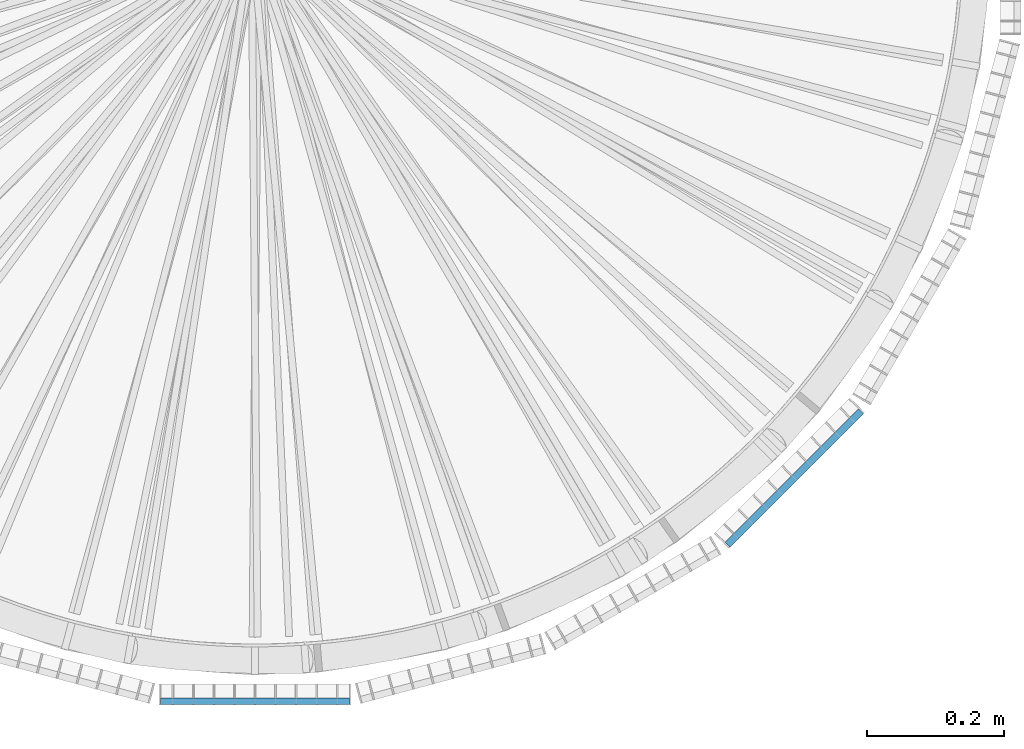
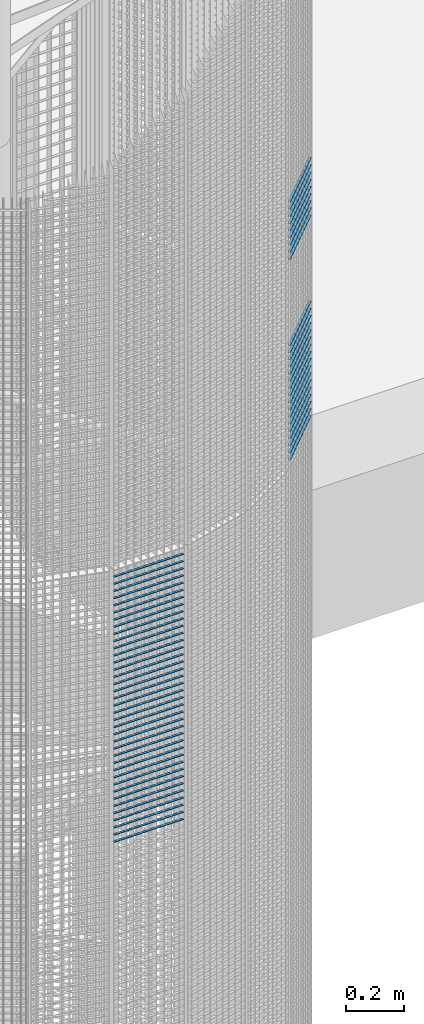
# One storey, part 394 of 1148: 64 beams, 2 elements without a shape of their own.
"""IFC2X3 building model written with IfcOpenShell, lengths in millimetres."""

from ifc_helpers import new_model, si_unit, frame, origin_with_axes, origin_2d_with_axis, place, context, subcontext, project, spatial, rectangle, extrude, material, type_object, element, aggregate, save


model = new_model("IFC2X3")

# Units and contexts
model_context = context("Model", 3, precision=1e-05, world=origin_with_axes())
body_context = subcontext(model_context, "Body", "Model", "MODEL_VIEW")
ifc_project = project(units=[si_unit("LENGTHUNIT", "METRE", prefix="MILLI"), si_unit("AREAUNIT", "SQUARE_METRE"), si_unit("VOLUMEUNIT", "CUBIC_METRE"), si_unit("MASSUNIT", "GRAM", prefix="KILO"), si_unit("TIMEUNIT", "SECOND"), si_unit("PLANEANGLEUNIT", "RADIAN"), si_unit("SOLIDANGLEUNIT", "STERADIAN"), si_unit("THERMODYNAMICTEMPERATUREUNIT", "DEGREE_CELSIUS"), si_unit("LUMINOUSINTENSITYUNIT", "LUMEN")], contexts=[model_context])

# Site, building, storey
site_placement = place(None, origin_with_axes())
site = spatial("IfcSite", under=ifc_project, at=site_placement, Name="Undefined", CompositionType="ELEMENT")
building_placement = place(site_placement, origin_with_axes())
building = spatial("IfcBuilding", under=site, at=building_placement, Name="Undefined", CompositionType="ELEMENT")
storey_placement = place(building_placement, origin_with_axes())
storey = spatial("IfcBuildingStorey", under=building, at=storey_placement, Name="Undefined", CompositionType="ELEMENT", Elevation=0.0)

# Assembly, beams
assembly_1_placement = place(storey_placement, origin_with_axes())
assembly_1 = element("IfcElementAssembly", 1, at=assembly_1_placement, inside=storey, Name="BORDURE", AssemblyPlace="NOTDEFINED", PredefinedType="NOTDEFINED")
ifc_material = material(Name="STEEL/S235JR")
beam_type = type_object("IfcBeamType", Name="PL2*10", PredefinedType="NOTDEFINED")
beam_1_placement = place(assembly_1_placement, frame((22484.9271684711, -689.771348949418, 9510.0), z_axis=(0.707106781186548, -0.707106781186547, 0.0), x_axis=(-0.70710678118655, -0.707106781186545, 0.0)))
beam_1 = element("IfcBeam", 2, at=beam_1_placement, type_object=beam_type, material=ifc_material, Name="ENTRETOISE", context=body_context, shape_type="SweptSolid", body=[
    extrude(rectangle(XDim=2.0, YDim=10.0, at=origin_2d_with_axis()), frame((275.999999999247, 9.09494701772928e-13, 1.53210777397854e-14), z_axis=(-1.0, 0.0, 0.0), x_axis=(0.0, -1.0, 0.0)), (0.0, 0.0, 1.0), 276.0),
])
beam_2_placement = place(assembly_1_placement, frame((22484.9271684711, -689.771348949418, 9480.0), z_axis=(0.707106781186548, -0.707106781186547, 0.0), x_axis=(-0.70710678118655, -0.707106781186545, 0.0)))
beam_2 = element("IfcBeam", 3, at=beam_2_placement, type_object=beam_type, material=ifc_material, Name="ENTRETOISE", context=body_context, shape_type="SweptSolid", body=[
    extrude(rectangle(XDim=2.0, YDim=10.0, at=origin_2d_with_axis()), frame((275.999999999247, 9.09494701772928e-13, 1.53210777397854e-14), z_axis=(-1.0, 0.0, 0.0), x_axis=(0.0, -1.0, 0.0)), (0.0, 0.0, 1.0), 276.0),
])
beam_3_placement = place(assembly_1_placement, frame((22484.9271684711, -689.771348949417, 9870.0), z_axis=(0.707106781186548, -0.707106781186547, 0.0), x_axis=(-0.70710678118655, -0.707106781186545, 0.0)))
beam_3 = element("IfcBeam", 4, at=beam_3_placement, type_object=beam_type, material=ifc_material, Name="ENTRETOISE", context=body_context, shape_type="SweptSolid", body=[
    extrude(rectangle(XDim=2.0, YDim=10.0, at=origin_2d_with_axis()), frame((275.999999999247, 9.09494701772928e-13, 1.53210777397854e-14), z_axis=(-1.0, 0.0, 0.0), x_axis=(0.0, -1.0, 0.0)), (0.0, 0.0, 1.0), 276.0),
])
beam_4_placement = place(assembly_1_placement, frame((22484.9271684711, -689.771348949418, 9450.0), z_axis=(0.707106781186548, -0.707106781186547, 0.0), x_axis=(-0.70710678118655, -0.707106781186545, 0.0)))
beam_4 = element("IfcBeam", 5, at=beam_4_placement, type_object=beam_type, material=ifc_material, Name="ENTRETOISE", context=body_context, shape_type="SweptSolid", body=[
    extrude(rectangle(XDim=2.0, YDim=10.0, at=origin_2d_with_axis()), frame((275.999999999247, 9.09494701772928e-13, 1.53210777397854e-14), z_axis=(-1.0, 0.0, 0.0), x_axis=(0.0, -1.0, 0.0)), (0.0, 0.0, 1.0), 276.0),
])
beam_5_placement = place(assembly_1_placement, frame((22484.9271684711, -689.771348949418, 9420.0), z_axis=(0.707106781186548, -0.707106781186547, 0.0), x_axis=(-0.70710678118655, -0.707106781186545, 0.0)))
beam_5 = element("IfcBeam", 6, at=beam_5_placement, type_object=beam_type, material=ifc_material, Name="ENTRETOISE", context=body_context, shape_type="SweptSolid", body=[
    extrude(rectangle(XDim=2.0, YDim=10.0, at=origin_2d_with_axis()), frame((275.999999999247, 9.09494701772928e-13, 1.53210777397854e-14), z_axis=(-1.0, 0.0, 0.0), x_axis=(0.0, -1.0, 0.0)), (0.0, 0.0, 1.0), 276.0),
])
beam_6_placement = place(assembly_1_placement, frame((22484.9271684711, -689.771348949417, 9900.0), z_axis=(0.707106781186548, -0.707106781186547, 0.0), x_axis=(-0.70710678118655, -0.707106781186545, 0.0)))
beam_6 = element("IfcBeam", 7, at=beam_6_placement, type_object=beam_type, material=ifc_material, Name="ENTRETOISE", context=body_context, shape_type="SweptSolid", body=[
    extrude(rectangle(XDim=2.0, YDim=10.0, at=origin_2d_with_axis()), frame((275.999999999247, 9.09494701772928e-13, 1.53210777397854e-14), z_axis=(-1.0, 0.0, 0.0), x_axis=(0.0, -1.0, 0.0)), (0.0, 0.0, 1.0), 276.0),
])
beam_7_placement = place(assembly_1_placement, frame((22484.9271684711, -689.771348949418, 9390.0), z_axis=(0.707106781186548, -0.707106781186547, 0.0), x_axis=(-0.70710678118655, -0.707106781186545, 0.0)))
beam_7 = element("IfcBeam", 8, at=beam_7_placement, type_object=beam_type, material=ifc_material, Name="ENTRETOISE", context=body_context, shape_type="SweptSolid", body=[
    extrude(rectangle(XDim=2.0, YDim=10.0, at=origin_2d_with_axis()), frame((275.999999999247, 9.09494701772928e-13, 1.53210777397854e-14), z_axis=(-1.0, 0.0, 0.0), x_axis=(0.0, -1.0, 0.0)), (0.0, 0.0, 1.0), 276.0),
])
beam_8_placement = place(assembly_1_placement, frame((22484.9271684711, -689.771348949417, 9930.0), z_axis=(0.707106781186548, -0.707106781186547, 0.0), x_axis=(-0.70710678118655, -0.707106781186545, 0.0)))
beam_8 = element("IfcBeam", 9, at=beam_8_placement, type_object=beam_type, material=ifc_material, Name="ENTRETOISE", context=body_context, shape_type="SweptSolid", body=[
    extrude(rectangle(XDim=2.0, YDim=10.0, at=origin_2d_with_axis()), frame((275.999999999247, 9.09494701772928e-13, 1.53210777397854e-14), z_axis=(-1.0, 0.0, 0.0), x_axis=(0.0, -1.0, 0.0)), (0.0, 0.0, 1.0), 276.0),
])
beam_9_placement = place(assembly_1_placement, frame((22484.9271684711, -689.771348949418, 9360.0), z_axis=(0.707106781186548, -0.707106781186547, 0.0), x_axis=(-0.70710678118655, -0.707106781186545, 0.0)))
beam_9 = element("IfcBeam", 10, at=beam_9_placement, type_object=beam_type, material=ifc_material, Name="ENTRETOISE", context=body_context, shape_type="SweptSolid", body=[
    extrude(rectangle(XDim=2.0, YDim=10.0, at=origin_2d_with_axis()), frame((275.999999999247, 9.09494701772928e-13, 1.53210777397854e-14), z_axis=(-1.0, 0.0, 0.0), x_axis=(0.0, -1.0, 0.0)), (0.0, 0.0, 1.0), 276.0),
])
beam_10_placement = place(assembly_1_placement, frame((22484.9271684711, -689.771348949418, 9330.0), z_axis=(0.707106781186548, -0.707106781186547, 0.0), x_axis=(-0.70710678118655, -0.707106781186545, 0.0)))
beam_10 = element("IfcBeam", 11, at=beam_10_placement, type_object=beam_type, material=ifc_material, Name="ENTRETOISE", context=body_context, shape_type="SweptSolid", body=[
    extrude(rectangle(XDim=2.0, YDim=10.0, at=origin_2d_with_axis()), frame((275.999999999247, 9.09494701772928e-13, 1.53210777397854e-14), z_axis=(-1.0, 0.0, 0.0), x_axis=(0.0, -1.0, 0.0)), (0.0, 0.0, 1.0), 276.0),
])
beam_11_placement = place(assembly_1_placement, frame((22484.9271684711, -689.771348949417, 9960.0), z_axis=(0.707106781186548, -0.707106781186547, 0.0), x_axis=(-0.70710678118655, -0.707106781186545, 0.0)))
beam_11 = element("IfcBeam", 12, at=beam_11_placement, type_object=beam_type, material=ifc_material, Name="ENTRETOISE", context=body_context, shape_type="SweptSolid", body=[
    extrude(rectangle(XDim=2.0, YDim=10.0, at=origin_2d_with_axis()), frame((275.999999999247, 9.09494701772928e-13, 1.53210777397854e-14), z_axis=(-1.0, 0.0, 0.0), x_axis=(0.0, -1.0, 0.0)), (0.0, 0.0, 1.0), 276.0),
])
beam_12_placement = place(assembly_1_placement, frame((22484.9271684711, -689.771348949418, 9300.0), z_axis=(0.707106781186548, -0.707106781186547, 0.0), x_axis=(-0.70710678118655, -0.707106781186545, 0.0)))
beam_12 = element("IfcBeam", 13, at=beam_12_placement, type_object=beam_type, material=ifc_material, Name="ENTRETOISE", context=body_context, shape_type="SweptSolid", body=[
    extrude(rectangle(XDim=2.0, YDim=10.0, at=origin_2d_with_axis()), frame((275.999999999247, 9.09494701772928e-13, 1.53210777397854e-14), z_axis=(-1.0, 0.0, 0.0), x_axis=(0.0, -1.0, 0.0)), (0.0, 0.0, 1.0), 276.0),
])
beam_13_placement = place(assembly_1_placement, frame((22484.9271684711, -689.771348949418, 9270.0), z_axis=(0.707106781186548, -0.707106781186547, 0.0), x_axis=(-0.70710678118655, -0.707106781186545, 0.0)))
beam_13 = element("IfcBeam", 14, at=beam_13_placement, type_object=beam_type, material=ifc_material, Name="ENTRETOISE", context=body_context, shape_type="SweptSolid", body=[
    extrude(rectangle(XDim=2.0, YDim=10.0, at=origin_2d_with_axis()), frame((275.999999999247, 9.09494701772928e-13, 1.53210777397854e-14), z_axis=(-1.0, 0.0, 0.0), x_axis=(0.0, -1.0, 0.0)), (0.0, 0.0, 1.0), 276.0),
])
beam_14_placement = place(assembly_1_placement, frame((22484.9271684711, -689.771348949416, 9990.0), z_axis=(0.707106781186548, -0.707106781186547, 0.0), x_axis=(-0.70710678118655, -0.707106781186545, 0.0)))
beam_14 = element("IfcBeam", 15, at=beam_14_placement, type_object=beam_type, material=ifc_material, Name="ENTRETOISE", context=body_context, shape_type="SweptSolid", body=[
    extrude(rectangle(XDim=2.0, YDim=10.0, at=origin_2d_with_axis()), frame((275.999999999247, 9.09494701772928e-13, 1.53210777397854e-14), z_axis=(-1.0, 0.0, 0.0), x_axis=(0.0, -1.0, 0.0)), (0.0, 0.0, 1.0), 276.0),
])
beam_15_placement = place(assembly_1_placement, frame((22484.9271684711, -689.771348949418, 9240.0), z_axis=(0.707106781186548, -0.707106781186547, 0.0), x_axis=(-0.70710678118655, -0.707106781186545, 0.0)))
beam_15 = element("IfcBeam", 16, at=beam_15_placement, type_object=beam_type, material=ifc_material, Name="ENTRETOISE", context=body_context, shape_type="SweptSolid", body=[
    extrude(rectangle(XDim=2.0, YDim=10.0, at=origin_2d_with_axis()), frame((275.999999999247, 9.09494701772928e-13, 1.53210777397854e-14), z_axis=(-1.0, 0.0, 0.0), x_axis=(0.0, -1.0, 0.0)), (0.0, 0.0, 1.0), 276.0),
])
beam_16_placement = place(assembly_1_placement, frame((22484.9271684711, -689.771348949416, 10020.0), z_axis=(0.707106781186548, -0.707106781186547, 0.0), x_axis=(-0.70710678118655, -0.707106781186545, 0.0)))
beam_16 = element("IfcBeam", 17, at=beam_16_placement, type_object=beam_type, material=ifc_material, Name="ENTRETOISE", context=body_context, shape_type="SweptSolid", body=[
    extrude(rectangle(XDim=2.0, YDim=10.0, at=origin_2d_with_axis()), frame((275.999999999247, 9.09494701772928e-13, 1.53210777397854e-14), z_axis=(-1.0, 0.0, 0.0), x_axis=(0.0, -1.0, 0.0)), (0.0, 0.0, 1.0), 276.0),
])
beam_17_placement = place(assembly_1_placement, frame((22484.9271684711, -689.771348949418, 9210.0), z_axis=(0.707106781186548, -0.707106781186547, 0.0), x_axis=(-0.70710678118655, -0.707106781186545, 0.0)))
beam_17 = element("IfcBeam", 18, at=beam_17_placement, type_object=beam_type, material=ifc_material, Name="ENTRETOISE", context=body_context, shape_type="SweptSolid", body=[
    extrude(rectangle(XDim=2.0, YDim=10.0, at=origin_2d_with_axis()), frame((275.999999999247, 9.09494701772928e-13, 1.53210777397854e-14), z_axis=(-1.0, 0.0, 0.0), x_axis=(0.0, -1.0, 0.0)), (0.0, 0.0, 1.0), 276.0),
])
beam_18_placement = place(assembly_1_placement, frame((22484.9271684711, -689.771348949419, 9180.0), z_axis=(0.707106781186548, -0.707106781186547, 0.0), x_axis=(-0.70710678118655, -0.707106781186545, 0.0)))
beam_18 = element("IfcBeam", 19, at=beam_18_placement, type_object=beam_type, material=ifc_material, Name="ENTRETOISE", context=body_context, shape_type="SweptSolid", body=[
    extrude(rectangle(XDim=2.0, YDim=10.0, at=origin_2d_with_axis()), frame((275.999999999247, 9.09494701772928e-13, 1.53210777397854e-14), z_axis=(-1.0, 0.0, 0.0), x_axis=(0.0, -1.0, 0.0)), (0.0, 0.0, 1.0), 276.0),
])
beam_19_placement = place(assembly_1_placement, frame((22484.9271684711, -689.771348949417, 10050.0), z_axis=(0.707106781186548, -0.707106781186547, 0.0), x_axis=(-0.70710678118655, -0.707106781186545, 0.0)))
beam_19 = element("IfcBeam", 20, at=beam_19_placement, type_object=beam_type, material=ifc_material, Name="ENTRETOISE", context=body_context, shape_type="SweptSolid", body=[
    extrude(rectangle(XDim=2.0, YDim=10.0, at=origin_2d_with_axis()), frame((275.999999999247, 9.09494701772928e-13, 1.53210777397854e-14), z_axis=(-1.0, 0.0, 0.0), x_axis=(0.0, -1.0, 0.0)), (0.0, 0.0, 1.0), 276.0),
])
beam_20_placement = place(assembly_1_placement, frame((22484.9271684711, -689.771348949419, 9150.0), z_axis=(0.707106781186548, -0.707106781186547, 0.0), x_axis=(-0.70710678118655, -0.707106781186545, 0.0)))
beam_20 = element("IfcBeam", 21, at=beam_20_placement, type_object=beam_type, material=ifc_material, Name="ENTRETOISE", context=body_context, shape_type="SweptSolid", body=[
    extrude(rectangle(XDim=2.0, YDim=10.0, at=origin_2d_with_axis()), frame((275.999999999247, 9.09494701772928e-13, 1.53210777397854e-14), z_axis=(-1.0, 0.0, 0.0), x_axis=(0.0, -1.0, 0.0)), (0.0, 0.0, 1.0), 276.0),
])
beam_21_placement = place(assembly_1_placement, frame((22484.9271684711, -689.771348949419, 9120.0), z_axis=(0.707106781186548, -0.707106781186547, 0.0), x_axis=(-0.70710678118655, -0.707106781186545, 0.0)))
beam_21 = element("IfcBeam", 22, at=beam_21_placement, type_object=beam_type, material=ifc_material, Name="ENTRETOISE", context=body_context, shape_type="SweptSolid", body=[
    extrude(rectangle(XDim=2.0, YDim=10.0, at=origin_2d_with_axis()), frame((275.999999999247, 9.09494701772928e-13, 1.53210777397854e-14), z_axis=(-1.0, 0.0, 0.0), x_axis=(0.0, -1.0, 0.0)), (0.0, 0.0, 1.0), 276.0),
])
beam_22_placement = place(assembly_1_placement, frame((22484.9271684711, -689.771348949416, 10080.0), z_axis=(0.707106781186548, -0.707106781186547, 0.0), x_axis=(-0.70710678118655, -0.707106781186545, 0.0)))
beam_22 = element("IfcBeam", 23, at=beam_22_placement, type_object=beam_type, material=ifc_material, Name="ENTRETOISE", context=body_context, shape_type="SweptSolid", body=[
    extrude(rectangle(XDim=2.0, YDim=10.0, at=origin_2d_with_axis()), frame((275.999999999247, 9.09494701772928e-13, 1.53210777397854e-14), z_axis=(-1.0, 0.0, 0.0), x_axis=(0.0, -1.0, 0.0)), (0.0, 0.0, 1.0), 276.0),
])
beam_23_placement = place(assembly_1_placement, frame((22484.9271684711, -689.771348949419, 9090.0), z_axis=(0.707106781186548, -0.707106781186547, 0.0), x_axis=(-0.70710678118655, -0.707106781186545, 0.0)))
beam_23 = element("IfcBeam", 24, at=beam_23_placement, type_object=beam_type, material=ifc_material, Name="ENTRETOISE", context=body_context, shape_type="SweptSolid", body=[
    extrude(rectangle(XDim=2.0, YDim=10.0, at=origin_2d_with_axis()), frame((275.999999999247, 9.09494701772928e-13, 1.53210777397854e-14), z_axis=(-1.0, 0.0, 0.0), x_axis=(0.0, -1.0, 0.0)), (0.0, 0.0, 1.0), 276.0),
])
beam_24_placement = place(assembly_1_placement, frame((22484.9271684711, -689.771348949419, 9060.0), z_axis=(0.707106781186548, -0.707106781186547, 0.0), x_axis=(-0.70710678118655, -0.707106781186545, 0.0)))
beam_24 = element("IfcBeam", 25, at=beam_24_placement, type_object=beam_type, material=ifc_material, Name="ENTRETOISE", context=body_context, shape_type="SweptSolid", body=[
    extrude(rectangle(XDim=2.0, YDim=10.0, at=origin_2d_with_axis()), frame((275.999999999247, 9.09494701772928e-13, 1.53210777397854e-14), z_axis=(-1.0, 0.0, 0.0), x_axis=(0.0, -1.0, 0.0)), (0.0, 0.0, 1.0), 276.0),
])
beam_25_placement = place(assembly_1_placement, frame((22484.9271684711, -689.771348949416, 10110.0), z_axis=(0.707106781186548, -0.707106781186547, 0.0), x_axis=(-0.70710678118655, -0.707106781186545, 0.0)))
beam_25 = element("IfcBeam", 26, at=beam_25_placement, type_object=beam_type, material=ifc_material, Name="ENTRETOISE", context=body_context, shape_type="SweptSolid", body=[
    extrude(rectangle(XDim=2.0, YDim=10.0, at=origin_2d_with_axis()), frame((275.999999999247, 9.09494701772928e-13, 1.53210777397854e-14), z_axis=(-1.0, 0.0, 0.0), x_axis=(0.0, -1.0, 0.0)), (0.0, 0.0, 1.0), 276.0),
])
beam_26_placement = place(assembly_1_placement, frame((22484.9271684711, -689.771348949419, 9030.0), z_axis=(0.707106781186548, -0.707106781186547, 0.0), x_axis=(-0.70710678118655, -0.707106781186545, 0.0)))
beam_26 = element("IfcBeam", 27, at=beam_26_placement, type_object=beam_type, material=ifc_material, Name="ENTRETOISE", context=body_context, shape_type="SweptSolid", body=[
    extrude(rectangle(XDim=2.0, YDim=10.0, at=origin_2d_with_axis()), frame((275.999999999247, 9.09494701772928e-13, 1.53210777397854e-14), z_axis=(-1.0, 0.0, 0.0), x_axis=(0.0, -1.0, 0.0)), (0.0, 0.0, 1.0), 276.0),
])
aggregate(assembly_1, [beam_1, beam_2, beam_3, beam_4, beam_5, beam_6, beam_7, beam_8, beam_9, beam_10, beam_11, beam_12, beam_13, beam_14, beam_15, beam_16, beam_17, beam_18, beam_19, beam_20, beam_21, beam_22, beam_23, beam_24, beam_25, beam_26])

assembly_2_placement = place(storey_placement, origin_with_axes())
assembly_2 = element("IfcElementAssembly", 28, at=assembly_2_placement, inside=storey, Name="BORDURE", AssemblyPlace="NOTDEFINED", PredefinedType="NOTDEFINED")
beam_27_placement = place(assembly_2_placement, frame((21737.9960033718, -1113.47999999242, 8970.0), z_axis=(0.0, -1.0, 0.0), x_axis=(-1.0, 0.0, 0.0)))
beam_27 = element("IfcBeam", 29, at=beam_27_placement, type_object=beam_type, material=ifc_material, Name="ENTRETOISE", context=body_context, shape_type="SweptSolid", body=[
    extrude(rectangle(XDim=2.0, YDim=10.0, at=origin_2d_with_axis()), frame((275.999999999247, 9.09494701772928e-13, 1.53210777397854e-14), z_axis=(-1.0, 0.0, 0.0), x_axis=(0.0, -1.0, 0.0)), (0.0, 0.0, 1.0), 276.0),
])
beam_28_placement = place(assembly_2_placement, frame((21737.9960033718, -1113.47999999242, 8940.0), z_axis=(0.0, -1.0, 0.0), x_axis=(-1.0, 0.0, 0.0)))
beam_28 = element("IfcBeam", 30, at=beam_28_placement, type_object=beam_type, material=ifc_material, Name="ENTRETOISE", context=body_context, shape_type="SweptSolid", body=[
    extrude(rectangle(XDim=2.0, YDim=10.0, at=origin_2d_with_axis()), frame((275.999999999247, 9.09494701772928e-13, 1.53210777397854e-14), z_axis=(-1.0, 0.0, 0.0), x_axis=(0.0, -1.0, 0.0)), (0.0, 0.0, 1.0), 276.0),
])
beam_29_placement = place(assembly_2_placement, frame((21737.9960033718, -1113.47999999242, 8910.0), z_axis=(0.0, -1.0, 0.0), x_axis=(-1.0, 0.0, 0.0)))
beam_29 = element("IfcBeam", 31, at=beam_29_placement, type_object=beam_type, material=ifc_material, Name="ENTRETOISE", context=body_context, shape_type="SweptSolid", body=[
    extrude(rectangle(XDim=2.0, YDim=10.0, at=origin_2d_with_axis()), frame((275.999999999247, 9.09494701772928e-13, 1.53210777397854e-14), z_axis=(-1.0, 0.0, 0.0), x_axis=(0.0, -1.0, 0.0)), (0.0, 0.0, 1.0), 276.0),
])
beam_30_placement = place(assembly_2_placement, frame((21737.9960033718, -1113.47999999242, 8880.0), z_axis=(0.0, -1.0, 0.0), x_axis=(-1.0, 0.0, 0.0)))
beam_30 = element("IfcBeam", 32, at=beam_30_placement, type_object=beam_type, material=ifc_material, Name="ENTRETOISE", context=body_context, shape_type="SweptSolid", body=[
    extrude(rectangle(XDim=2.0, YDim=10.0, at=origin_2d_with_axis()), frame((275.999999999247, 9.09494701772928e-13, 1.53210777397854e-14), z_axis=(-1.0, 0.0, 0.0), x_axis=(0.0, -1.0, 0.0)), (0.0, 0.0, 1.0), 276.0),
])
beam_31_placement = place(assembly_2_placement, frame((21737.9960033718, -1113.47999999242, 8850.0), z_axis=(0.0, -1.0, 0.0), x_axis=(-1.0, 0.0, 0.0)))
beam_31 = element("IfcBeam", 33, at=beam_31_placement, type_object=beam_type, material=ifc_material, Name="ENTRETOISE", context=body_context, shape_type="SweptSolid", body=[
    extrude(rectangle(XDim=2.0, YDim=10.0, at=origin_2d_with_axis()), frame((275.999999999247, 9.09494701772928e-13, 1.53210777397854e-14), z_axis=(-1.0, 0.0, 0.0), x_axis=(0.0, -1.0, 0.0)), (0.0, 0.0, 1.0), 276.0),
])
beam_32_placement = place(assembly_2_placement, frame((21737.9960033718, -1113.47999999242, 8820.0), z_axis=(0.0, -1.0, 0.0), x_axis=(-1.0, 0.0, 0.0)))
beam_32 = element("IfcBeam", 34, at=beam_32_placement, type_object=beam_type, material=ifc_material, Name="ENTRETOISE", context=body_context, shape_type="SweptSolid", body=[
    extrude(rectangle(XDim=2.0, YDim=10.0, at=origin_2d_with_axis()), frame((275.999999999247, 9.09494701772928e-13, 1.53210777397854e-14), z_axis=(-1.0, 0.0, 0.0), x_axis=(0.0, -1.0, 0.0)), (0.0, 0.0, 1.0), 276.0),
])
beam_33_placement = place(assembly_2_placement, frame((21737.9960033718, -1113.47999999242, 8790.0), z_axis=(0.0, -1.0, 0.0), x_axis=(-1.0, 0.0, 0.0)))
beam_33 = element("IfcBeam", 35, at=beam_33_placement, type_object=beam_type, material=ifc_material, Name="ENTRETOISE", context=body_context, shape_type="SweptSolid", body=[
    extrude(rectangle(XDim=2.0, YDim=10.0, at=origin_2d_with_axis()), frame((275.999999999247, 9.09494701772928e-13, 1.53210777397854e-14), z_axis=(-1.0, 0.0, 0.0), x_axis=(0.0, -1.0, 0.0)), (0.0, 0.0, 1.0), 276.0),
])
beam_34_placement = place(assembly_2_placement, frame((21737.9960033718, -1113.47999999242, 8760.0), z_axis=(0.0, -1.0, 0.0), x_axis=(-1.0, 0.0, 0.0)))
beam_34 = element("IfcBeam", 36, at=beam_34_placement, type_object=beam_type, material=ifc_material, Name="ENTRETOISE", context=body_context, shape_type="SweptSolid", body=[
    extrude(rectangle(XDim=2.0, YDim=10.0, at=origin_2d_with_axis()), frame((275.999999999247, 9.09494701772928e-13, 1.53210777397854e-14), z_axis=(-1.0, 0.0, 0.0), x_axis=(0.0, -1.0, 0.0)), (0.0, 0.0, 1.0), 276.0),
])
beam_35_placement = place(assembly_2_placement, frame((21737.9960033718, -1113.47999999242, 8730.0), z_axis=(0.0, -1.0, 0.0), x_axis=(-1.0, 0.0, 0.0)))
beam_35 = element("IfcBeam", 37, at=beam_35_placement, type_object=beam_type, material=ifc_material, Name="ENTRETOISE", context=body_context, shape_type="SweptSolid", body=[
    extrude(rectangle(XDim=2.0, YDim=10.0, at=origin_2d_with_axis()), frame((275.999999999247, 9.09494701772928e-13, 1.53210777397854e-14), z_axis=(-1.0, 0.0, 0.0), x_axis=(0.0, -1.0, 0.0)), (0.0, 0.0, 1.0), 276.0),
])
beam_36_placement = place(assembly_2_placement, frame((21737.9960033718, -1113.47999999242, 8700.0), z_axis=(0.0, -1.0, 0.0), x_axis=(-1.0, 0.0, 0.0)))
beam_36 = element("IfcBeam", 38, at=beam_36_placement, type_object=beam_type, material=ifc_material, Name="ENTRETOISE", context=body_context, shape_type="SweptSolid", body=[
    extrude(rectangle(XDim=2.0, YDim=10.0, at=origin_2d_with_axis()), frame((275.999999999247, 9.09494701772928e-13, 1.53210777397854e-14), z_axis=(-1.0, 0.0, 0.0), x_axis=(0.0, -1.0, 0.0)), (0.0, 0.0, 1.0), 276.0),
])
beam_37_placement = place(assembly_2_placement, frame((21737.9960033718, -1113.47999999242, 8670.0), z_axis=(0.0, -1.0, 0.0), x_axis=(-1.0, 0.0, 0.0)))
beam_37 = element("IfcBeam", 39, at=beam_37_placement, type_object=beam_type, material=ifc_material, Name="ENTRETOISE", context=body_context, shape_type="SweptSolid", body=[
    extrude(rectangle(XDim=2.0, YDim=10.0, at=origin_2d_with_axis()), frame((275.999999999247, 9.09494701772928e-13, 1.53210777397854e-14), z_axis=(-1.0, 0.0, 0.0), x_axis=(0.0, -1.0, 0.0)), (0.0, 0.0, 1.0), 276.0),
])
beam_38_placement = place(assembly_2_placement, frame((21737.9960033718, -1113.47999999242, 8640.0), z_axis=(0.0, -1.0, 0.0), x_axis=(-1.0, 0.0, 0.0)))
beam_38 = element("IfcBeam", 40, at=beam_38_placement, type_object=beam_type, material=ifc_material, Name="ENTRETOISE", context=body_context, shape_type="SweptSolid", body=[
    extrude(rectangle(XDim=2.0, YDim=10.0, at=origin_2d_with_axis()), frame((275.999999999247, 9.09494701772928e-13, 1.53210777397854e-14), z_axis=(-1.0, 0.0, 0.0), x_axis=(0.0, -1.0, 0.0)), (0.0, 0.0, 1.0), 276.0),
])
beam_39_placement = place(assembly_2_placement, frame((21737.9960033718, -1113.47999999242, 8610.0), z_axis=(0.0, -1.0, 0.0), x_axis=(-1.0, 0.0, 0.0)))
beam_39 = element("IfcBeam", 41, at=beam_39_placement, type_object=beam_type, material=ifc_material, Name="ENTRETOISE", context=body_context, shape_type="SweptSolid", body=[
    extrude(rectangle(XDim=2.0, YDim=10.0, at=origin_2d_with_axis()), frame((275.999999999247, 9.09494701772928e-13, 1.53210777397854e-14), z_axis=(-1.0, 0.0, 0.0), x_axis=(0.0, -1.0, 0.0)), (0.0, 0.0, 1.0), 276.0),
])
beam_40_placement = place(assembly_2_placement, frame((21737.9960033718, -1113.47999999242, 8580.0), z_axis=(0.0, -1.0, 0.0), x_axis=(-1.0, 0.0, 0.0)))
beam_40 = element("IfcBeam", 42, at=beam_40_placement, type_object=beam_type, material=ifc_material, Name="ENTRETOISE", context=body_context, shape_type="SweptSolid", body=[
    extrude(rectangle(XDim=2.0, YDim=10.0, at=origin_2d_with_axis()), frame((275.999999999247, 9.09494701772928e-13, 1.53210777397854e-14), z_axis=(-1.0, 0.0, 0.0), x_axis=(0.0, -1.0, 0.0)), (0.0, 0.0, 1.0), 276.0),
])
beam_41_placement = place(assembly_2_placement, frame((21737.9960033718, -1113.47999999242, 8550.0), z_axis=(0.0, -1.0, 0.0), x_axis=(-1.0, 0.0, 0.0)))
beam_41 = element("IfcBeam", 43, at=beam_41_placement, type_object=beam_type, material=ifc_material, Name="ENTRETOISE", context=body_context, shape_type="SweptSolid", body=[
    extrude(rectangle(XDim=2.0, YDim=10.0, at=origin_2d_with_axis()), frame((275.999999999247, 9.09494701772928e-13, 1.53210777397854e-14), z_axis=(-1.0, 0.0, 0.0), x_axis=(0.0, -1.0, 0.0)), (0.0, 0.0, 1.0), 276.0),
])
beam_42_placement = place(assembly_2_placement, frame((21737.9960033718, -1113.47999999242, 8520.0), z_axis=(0.0, -1.0, 0.0), x_axis=(-1.0, 0.0, 0.0)))
beam_42 = element("IfcBeam", 44, at=beam_42_placement, type_object=beam_type, material=ifc_material, Name="ENTRETOISE", context=body_context, shape_type="SweptSolid", body=[
    extrude(rectangle(XDim=2.0, YDim=10.0, at=origin_2d_with_axis()), frame((275.999999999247, 9.09494701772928e-13, 1.53210777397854e-14), z_axis=(-1.0, 0.0, 0.0), x_axis=(0.0, -1.0, 0.0)), (0.0, 0.0, 1.0), 276.0),
])
beam_43_placement = place(assembly_2_placement, frame((21737.9960033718, -1113.47999999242, 8490.0), z_axis=(0.0, -1.0, 0.0), x_axis=(-1.0, 0.0, 0.0)))
beam_43 = element("IfcBeam", 45, at=beam_43_placement, type_object=beam_type, material=ifc_material, Name="ENTRETOISE", context=body_context, shape_type="SweptSolid", body=[
    extrude(rectangle(XDim=2.0, YDim=10.0, at=origin_2d_with_axis()), frame((275.999999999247, 9.09494701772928e-13, 1.53210777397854e-14), z_axis=(-1.0, 0.0, 0.0), x_axis=(0.0, -1.0, 0.0)), (0.0, 0.0, 1.0), 276.0),
])
beam_44_placement = place(assembly_2_placement, frame((21737.9960033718, -1113.47999999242, 8460.0), z_axis=(0.0, -1.0, 0.0), x_axis=(-1.0, 0.0, 0.0)))
beam_44 = element("IfcBeam", 46, at=beam_44_placement, type_object=beam_type, material=ifc_material, Name="ENTRETOISE", context=body_context, shape_type="SweptSolid", body=[
    extrude(rectangle(XDim=2.0, YDim=10.0, at=origin_2d_with_axis()), frame((275.999999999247, 9.09494701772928e-13, 1.53210777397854e-14), z_axis=(-1.0, 0.0, 0.0), x_axis=(0.0, -1.0, 0.0)), (0.0, 0.0, 1.0), 276.0),
])
beam_45_placement = place(assembly_2_placement, frame((21737.9960033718, -1113.47999999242, 8430.0), z_axis=(0.0, -1.0, 0.0), x_axis=(-1.0, 0.0, 0.0)))
beam_45 = element("IfcBeam", 47, at=beam_45_placement, type_object=beam_type, material=ifc_material, Name="ENTRETOISE", context=body_context, shape_type="SweptSolid", body=[
    extrude(rectangle(XDim=2.0, YDim=10.0, at=origin_2d_with_axis()), frame((275.999999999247, 9.09494701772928e-13, 1.53210777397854e-14), z_axis=(-1.0, 0.0, 0.0), x_axis=(0.0, -1.0, 0.0)), (0.0, 0.0, 1.0), 276.0),
])
beam_46_placement = place(assembly_2_placement, frame((21737.9960033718, -1113.47999999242, 8400.0), z_axis=(0.0, -1.0, 0.0), x_axis=(-1.0, 0.0, 0.0)))
beam_46 = element("IfcBeam", 48, at=beam_46_placement, type_object=beam_type, material=ifc_material, Name="ENTRETOISE", context=body_context, shape_type="SweptSolid", body=[
    extrude(rectangle(XDim=2.0, YDim=10.0, at=origin_2d_with_axis()), frame((275.999999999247, 9.09494701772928e-13, 1.53210777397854e-14), z_axis=(-1.0, 0.0, 0.0), x_axis=(0.0, -1.0, 0.0)), (0.0, 0.0, 1.0), 276.0),
])
beam_47_placement = place(assembly_2_placement, frame((21737.9960033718, -1113.47999999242, 8370.0), z_axis=(0.0, -1.0, 0.0), x_axis=(-1.0, 0.0, 0.0)))
beam_47 = element("IfcBeam", 49, at=beam_47_placement, type_object=beam_type, material=ifc_material, Name="ENTRETOISE", context=body_context, shape_type="SweptSolid", body=[
    extrude(rectangle(XDim=2.0, YDim=10.0, at=origin_2d_with_axis()), frame((275.999999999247, 9.09494701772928e-13, 1.53210777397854e-14), z_axis=(-1.0, 0.0, 0.0), x_axis=(0.0, -1.0, 0.0)), (0.0, 0.0, 1.0), 276.0),
])
beam_48_placement = place(assembly_2_placement, frame((21737.9960033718, -1113.47999999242, 8340.0), z_axis=(0.0, -1.0, 0.0), x_axis=(-1.0, 0.0, 0.0)))
beam_48 = element("IfcBeam", 50, at=beam_48_placement, type_object=beam_type, material=ifc_material, Name="ENTRETOISE", context=body_context, shape_type="SweptSolid", body=[
    extrude(rectangle(XDim=2.0, YDim=10.0, at=origin_2d_with_axis()), frame((275.999999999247, 9.09494701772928e-13, 1.53210777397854e-14), z_axis=(-1.0, 0.0, 0.0), x_axis=(0.0, -1.0, 0.0)), (0.0, 0.0, 1.0), 276.0),
])
beam_49_placement = place(assembly_2_placement, frame((21737.9960033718, -1113.47999999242, 8310.0), z_axis=(0.0, -1.0, 0.0), x_axis=(-1.0, 0.0, 0.0)))
beam_49 = element("IfcBeam", 51, at=beam_49_placement, type_object=beam_type, material=ifc_material, Name="ENTRETOISE", context=body_context, shape_type="SweptSolid", body=[
    extrude(rectangle(XDim=2.0, YDim=10.0, at=origin_2d_with_axis()), frame((275.999999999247, 9.09494701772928e-13, 1.53210777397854e-14), z_axis=(-1.0, 0.0, 0.0), x_axis=(0.0, -1.0, 0.0)), (0.0, 0.0, 1.0), 276.0),
])
beam_50_placement = place(assembly_2_placement, frame((21737.9960033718, -1113.47999999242, 8280.0), z_axis=(0.0, -1.0, 0.0), x_axis=(-1.0, 0.0, 0.0)))
beam_50 = element("IfcBeam", 52, at=beam_50_placement, type_object=beam_type, material=ifc_material, Name="ENTRETOISE", context=body_context, shape_type="SweptSolid", body=[
    extrude(rectangle(XDim=2.0, YDim=10.0, at=origin_2d_with_axis()), frame((275.999999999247, 9.09494701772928e-13, 1.53210777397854e-14), z_axis=(-1.0, 0.0, 0.0), x_axis=(0.0, -1.0, 0.0)), (0.0, 0.0, 1.0), 276.0),
])
beam_51_placement = place(assembly_2_placement, frame((21737.9960033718, -1113.47999999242, 8250.0), z_axis=(0.0, -1.0, 0.0), x_axis=(-1.0, 0.0, 0.0)))
beam_51 = element("IfcBeam", 53, at=beam_51_placement, type_object=beam_type, material=ifc_material, Name="ENTRETOISE", context=body_context, shape_type="SweptSolid", body=[
    extrude(rectangle(XDim=2.0, YDim=10.0, at=origin_2d_with_axis()), frame((275.999999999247, 9.09494701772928e-13, 1.53210777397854e-14), z_axis=(-1.0, 0.0, 0.0), x_axis=(0.0, -1.0, 0.0)), (0.0, 0.0, 1.0), 276.0),
])
beam_52_placement = place(assembly_2_placement, frame((21737.9960033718, -1113.47999999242, 8220.0), z_axis=(0.0, -1.0, 0.0), x_axis=(-1.0, 0.0, 0.0)))
beam_52 = element("IfcBeam", 54, at=beam_52_placement, type_object=beam_type, material=ifc_material, Name="ENTRETOISE", context=body_context, shape_type="SweptSolid", body=[
    extrude(rectangle(XDim=2.0, YDim=10.0, at=origin_2d_with_axis()), frame((275.999999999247, 9.09494701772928e-13, 1.53210777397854e-14), z_axis=(-1.0, 0.0, 0.0), x_axis=(0.0, -1.0, 0.0)), (0.0, 0.0, 1.0), 276.0),
])
beam_53_placement = place(assembly_2_placement, frame((21737.9960033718, -1113.47999999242, 8190.0), z_axis=(0.0, -1.0, 0.0), x_axis=(-1.0, 0.0, 0.0)))
beam_53 = element("IfcBeam", 55, at=beam_53_placement, type_object=beam_type, material=ifc_material, Name="ENTRETOISE", context=body_context, shape_type="SweptSolid", body=[
    extrude(rectangle(XDim=2.0, YDim=10.0, at=origin_2d_with_axis()), frame((275.999999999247, 9.09494701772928e-13, 1.53210777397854e-14), z_axis=(-1.0, 0.0, 0.0), x_axis=(0.0, -1.0, 0.0)), (0.0, 0.0, 1.0), 276.0),
])
beam_54_placement = place(assembly_2_placement, frame((21737.9960033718, -1113.47999999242, 8160.0), z_axis=(0.0, -1.0, 0.0), x_axis=(-1.0, 0.0, 0.0)))
beam_54 = element("IfcBeam", 56, at=beam_54_placement, type_object=beam_type, material=ifc_material, Name="ENTRETOISE", context=body_context, shape_type="SweptSolid", body=[
    extrude(rectangle(XDim=2.0, YDim=10.0, at=origin_2d_with_axis()), frame((275.999999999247, 9.09494701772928e-13, 1.53210777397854e-14), z_axis=(-1.0, 0.0, 0.0), x_axis=(0.0, -1.0, 0.0)), (0.0, 0.0, 1.0), 276.0),
])
beam_55_placement = place(assembly_2_placement, frame((21737.9960033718, -1113.47999999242, 8130.0), z_axis=(0.0, -1.0, 0.0), x_axis=(-1.0, 0.0, 0.0)))
beam_55 = element("IfcBeam", 57, at=beam_55_placement, type_object=beam_type, material=ifc_material, Name="ENTRETOISE", context=body_context, shape_type="SweptSolid", body=[
    extrude(rectangle(XDim=2.0, YDim=10.0, at=origin_2d_with_axis()), frame((275.999999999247, 9.09494701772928e-13, 1.53210777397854e-14), z_axis=(-1.0, 0.0, 0.0), x_axis=(0.0, -1.0, 0.0)), (0.0, 0.0, 1.0), 276.0),
])
beam_56_placement = place(assembly_2_placement, frame((21737.9960033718, -1113.47999999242, 8100.0), z_axis=(0.0, -1.0, 0.0), x_axis=(-1.0, 0.0, 0.0)))
beam_56 = element("IfcBeam", 58, at=beam_56_placement, type_object=beam_type, material=ifc_material, Name="ENTRETOISE", context=body_context, shape_type="SweptSolid", body=[
    extrude(rectangle(XDim=2.0, YDim=10.0, at=origin_2d_with_axis()), frame((275.999999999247, 9.09494701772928e-13, 1.53210777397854e-14), z_axis=(-1.0, 0.0, 0.0), x_axis=(0.0, -1.0, 0.0)), (0.0, 0.0, 1.0), 276.0),
])
beam_57_placement = place(assembly_2_placement, frame((21737.9960033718, -1113.47999999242, 8070.0), z_axis=(0.0, -1.0, 0.0), x_axis=(-1.0, 0.0, 0.0)))
beam_57 = element("IfcBeam", 59, at=beam_57_placement, type_object=beam_type, material=ifc_material, Name="ENTRETOISE", context=body_context, shape_type="SweptSolid", body=[
    extrude(rectangle(XDim=2.0, YDim=10.0, at=origin_2d_with_axis()), frame((275.999999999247, 9.09494701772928e-13, 1.53210777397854e-14), z_axis=(-1.0, 0.0, 0.0), x_axis=(0.0, -1.0, 0.0)), (0.0, 0.0, 1.0), 276.0),
])
beam_58_placement = place(assembly_2_placement, frame((21737.9960033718, -1113.47999999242, 8040.0), z_axis=(0.0, -1.0, 0.0), x_axis=(-1.0, 0.0, 0.0)))
beam_58 = element("IfcBeam", 60, at=beam_58_placement, type_object=beam_type, material=ifc_material, Name="ENTRETOISE", context=body_context, shape_type="SweptSolid", body=[
    extrude(rectangle(XDim=2.0, YDim=10.0, at=origin_2d_with_axis()), frame((275.999999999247, 9.09494701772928e-13, 1.53210777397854e-14), z_axis=(-1.0, 0.0, 0.0), x_axis=(0.0, -1.0, 0.0)), (0.0, 0.0, 1.0), 276.0),
])
beam_59_placement = place(assembly_2_placement, frame((21737.9960033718, -1113.47999999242, 8010.0), z_axis=(0.0, -1.0, 0.0), x_axis=(-1.0, 0.0, 0.0)))
beam_59 = element("IfcBeam", 61, at=beam_59_placement, type_object=beam_type, material=ifc_material, Name="ENTRETOISE", context=body_context, shape_type="SweptSolid", body=[
    extrude(rectangle(XDim=2.0, YDim=10.0, at=origin_2d_with_axis()), frame((275.999999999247, 9.09494701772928e-13, 1.53210777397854e-14), z_axis=(-1.0, 0.0, 0.0), x_axis=(0.0, -1.0, 0.0)), (0.0, 0.0, 1.0), 276.0),
])
beam_60_placement = place(assembly_2_placement, frame((21737.9960033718, -1113.47999999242, 7980.0), z_axis=(0.0, -1.0, 0.0), x_axis=(-1.0, 0.0, 0.0)))
beam_60 = element("IfcBeam", 62, at=beam_60_placement, type_object=beam_type, material=ifc_material, Name="ENTRETOISE", context=body_context, shape_type="SweptSolid", body=[
    extrude(rectangle(XDim=2.0, YDim=10.0, at=origin_2d_with_axis()), frame((275.999999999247, 9.09494701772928e-13, 1.53210777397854e-14), z_axis=(-1.0, 0.0, 0.0), x_axis=(0.0, -1.0, 0.0)), (0.0, 0.0, 1.0), 276.0),
])
beam_61_placement = place(assembly_2_placement, frame((21737.9960033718, -1113.47999999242, 7950.0), z_axis=(0.0, -1.0, 0.0), x_axis=(-1.0, 0.0, 0.0)))
beam_61 = element("IfcBeam", 63, at=beam_61_placement, type_object=beam_type, material=ifc_material, Name="ENTRETOISE", context=body_context, shape_type="SweptSolid", body=[
    extrude(rectangle(XDim=2.0, YDim=10.0, at=origin_2d_with_axis()), frame((275.999999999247, 9.09494701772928e-13, 1.53210777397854e-14), z_axis=(-1.0, 0.0, 0.0), x_axis=(0.0, -1.0, 0.0)), (0.0, 0.0, 1.0), 276.0),
])
beam_62_placement = place(assembly_2_placement, frame((21737.9960033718, -1113.47999999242, 7920.0), z_axis=(0.0, -1.0, 0.0), x_axis=(-1.0, 0.0, 0.0)))
beam_62 = element("IfcBeam", 64, at=beam_62_placement, type_object=beam_type, material=ifc_material, Name="ENTRETOISE", context=body_context, shape_type="SweptSolid", body=[
    extrude(rectangle(XDim=2.0, YDim=10.0, at=origin_2d_with_axis()), frame((275.999999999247, 9.09494701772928e-13, 1.53210777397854e-14), z_axis=(-1.0, 0.0, 0.0), x_axis=(0.0, -1.0, 0.0)), (0.0, 0.0, 1.0), 276.0),
])
beam_63_placement = place(assembly_2_placement, frame((21737.9960033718, -1113.47999999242, 7890.0), z_axis=(0.0, -1.0, 0.0), x_axis=(-1.0, 0.0, 0.0)))
beam_63 = element("IfcBeam", 65, at=beam_63_placement, type_object=beam_type, material=ifc_material, Name="ENTRETOISE", context=body_context, shape_type="SweptSolid", body=[
    extrude(rectangle(XDim=2.0, YDim=10.0, at=origin_2d_with_axis()), frame((275.999999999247, 9.09494701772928e-13, 1.53210777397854e-14), z_axis=(-1.0, 0.0, 0.0), x_axis=(0.0, -1.0, 0.0)), (0.0, 0.0, 1.0), 276.0),
])
beam_64_placement = place(assembly_2_placement, frame((21737.9960033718, -1113.47999999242, 7860.0), z_axis=(0.0, -1.0, 0.0), x_axis=(-1.0, 0.0, 0.0)))
beam_64 = element("IfcBeam", 66, at=beam_64_placement, type_object=beam_type, material=ifc_material, Name="ENTRETOISE", context=body_context, shape_type="SweptSolid", body=[
    extrude(rectangle(XDim=2.0, YDim=10.0, at=origin_2d_with_axis()), frame((275.999999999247, 9.09494701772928e-13, 1.53210777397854e-14), z_axis=(-1.0, 0.0, 0.0), x_axis=(0.0, -1.0, 0.0)), (0.0, 0.0, 1.0), 276.0),
])
aggregate(assembly_2, [beam_27, beam_28, beam_29, beam_30, beam_31, beam_32, beam_33, beam_34, beam_35, beam_36, beam_37, beam_38, beam_39, beam_40, beam_41, beam_42, beam_43, beam_44, beam_45, beam_46, beam_47, beam_48, beam_49, beam_50, beam_51, beam_52, beam_53, beam_54, beam_55, beam_56, beam_57, beam_58, beam_59, beam_60, beam_61, beam_62, beam_63, beam_64])

save(model, "model.ifc")
